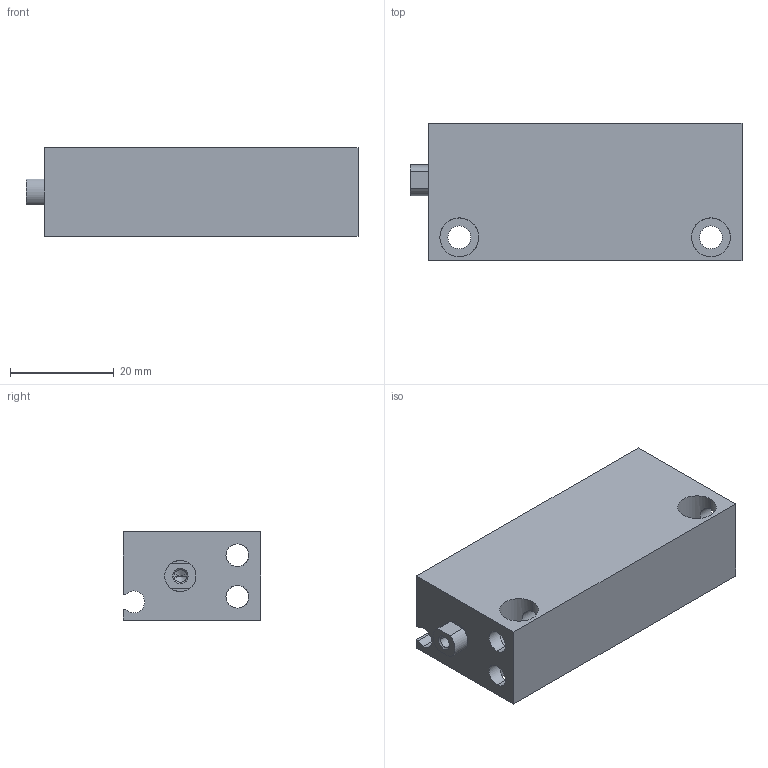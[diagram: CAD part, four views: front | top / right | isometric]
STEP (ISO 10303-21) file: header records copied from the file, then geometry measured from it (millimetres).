
FILE_DESCRIPTION (( 'STEP AP203' ), '1' );
FILE_NAME ('CLJB12-45.STEP', '2020-07-30T19:22:08', ( '' ), ( '' ), 'SwSTEP 2.0', 'SolidWorks 2019', '' );
FILE_SCHEMA (( 'CONFIG_CONTROL_DESIGN' ));
Length unit declared in the file: millimetre
Products named in the file (1): CLJB12-45
Bounding box: 64 x 26.5 x 17 mm (x, y, z)
Volume: 19860.5 mm3; surface area: 11928.9 mm2
Topology: 2 solids, 2 shells, 75 faces, 188 edges, 113 vertices
Faces by surface type: cylinder 41, plane 22, cone 12
Entity records: 3119 total; most frequent: CARTESIAN_POINT 1223, DIRECTION 394, ORIENTED_EDGE 364, EDGE_CURVE 182, AXIS2_PLACEMENT_3D 152, VERTEX_POINT 113, EDGE_LOOP 93, LINE 90
